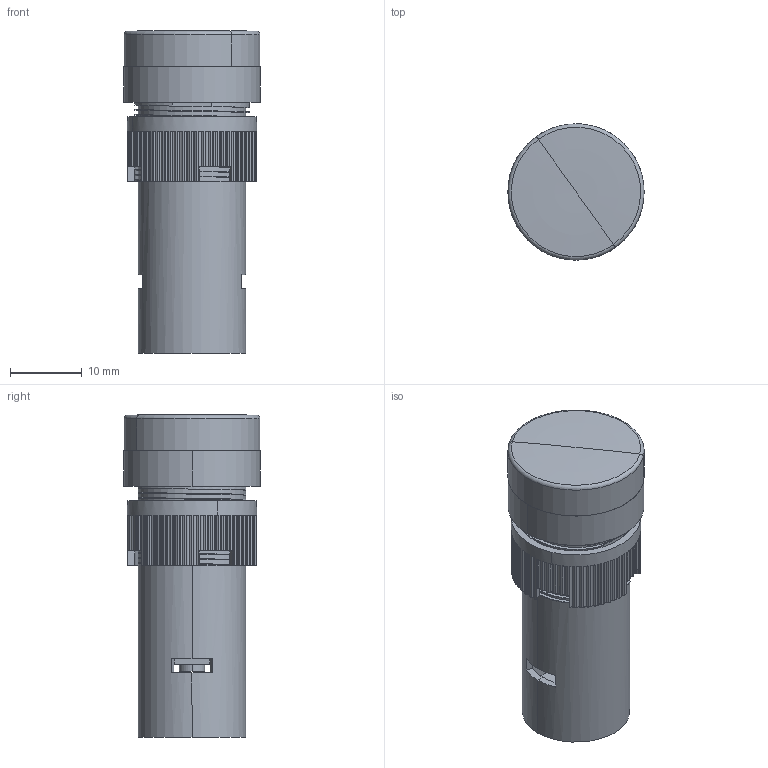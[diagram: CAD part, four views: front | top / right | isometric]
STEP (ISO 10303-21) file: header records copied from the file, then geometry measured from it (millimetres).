
FILE_DESCRIPTION (( 'STEP AP203' ), '1' );
FILE_NAME ('Àðìàòóðà ñèãíàëüíàÿ MT16-D13.STEP', '2019-05-10T13:59:03', ( '' ), ( '' ), 'SwSTEP 2.0', 'SolidWorks 2015', '' );
FILE_SCHEMA (( 'CONFIG_CONTROL_DESIGN' ));
Length unit declared in the file: millimetre
Products named in the file (4): Àðìàòóðà ñèãíàëüíàÿ MT16-D13; êðûøêà_00; 扻錪犩; Àðìàòóðà ñèãíàëüíàÿ MT16 (çåëåíàÿ)
Assembly tree (3 placements, depth 2):
  Àðìàòóðà ñèãíàëüíàÿ MT16-D13
    Àðìàòóðà ñèãíàëüíàÿ MT16 (çåëåíàÿ)
    êðûøêà_00
    扻錪犩
Bounding box: 19 x 19 x 45.02 mm (x, y, z)
Volume: 7766.2 mm3; surface area: 6261 mm2
Topology: 3 solids, 3 shells, 531 faces, 1486 edges, 964 vertices
Faces by surface type: cylinder 296, plane 155, bspline 64, cone 10, torus 6
Entity records: 42819 total; most frequent: CARTESIAN_POINT 29119, ORIENTED_EDGE 2964, DIRECTION 2809, EDGE_CURVE 1482, AXIS2_PLACEMENT_3D 1149, VERTEX_POINT 964, CIRCLE 676, EDGE_LOOP 546
